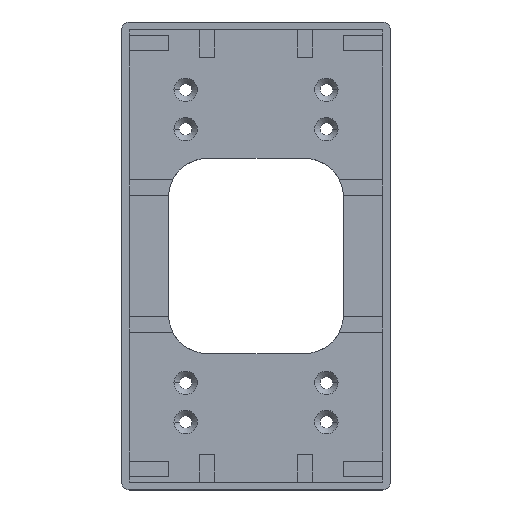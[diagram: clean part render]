
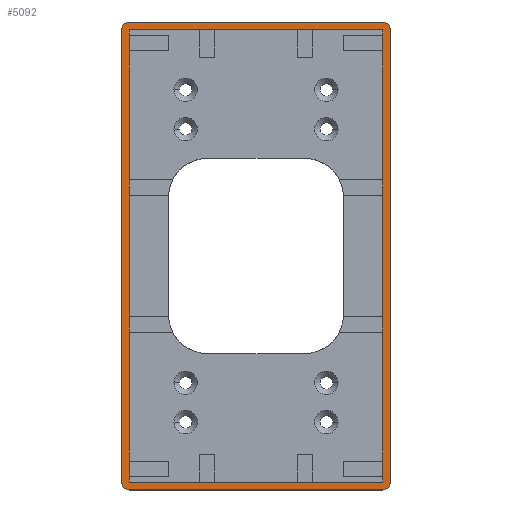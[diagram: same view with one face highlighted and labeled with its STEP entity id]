
A CAD part, top view. The second image highlights one B-rep face of the part: STEP entity #5092.
In plain terms, the highlighted planar face has unit normal (0, 0, 1).
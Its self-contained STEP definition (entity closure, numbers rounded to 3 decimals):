
#79 = VERTEX_POINT ( 'NONE', #5279 ) ;
#140 = ORIENTED_EDGE ( 'NONE', *, *, #5323, .F. ) ;
#148 = FACE_BOUND ( 'NONE', #4684, .T. ) ;
#152 = EDGE_CURVE ( 'NONE', #4329, #2093, #2324, .T. ) ;
#281 = CARTESIAN_POINT ( 'NONE',  ( -162.6, 254.9, 1. ) ) ;
#426 = CIRCLE ( 'NONE', #3569, 2. ) ;
#431 = LINE ( 'NONE', #4018, #4856 ) ;
#495 = CARTESIAN_POINT ( 'NONE',  ( -162.6, 137.1, 1. ) ) ;
#561 = EDGE_CURVE ( 'NONE', #958, #5165, #1219, .T. ) ;
#665 = CARTESIAN_POINT ( 'NONE',  ( -229.4, 254.9, 1. ) ) ;
#679 = CARTESIAN_POINT ( 'NONE',  ( -162.6, 254.9, 1. ) ) ;
#724 = VECTOR ( 'NONE', #1718, 1000. ) ;
#802 = EDGE_CURVE ( 'NONE', #1403, #1120, #3591, .T. ) ;
#816 = VECTOR ( 'NONE', #2236, 1000. ) ;
#909 = CARTESIAN_POINT ( 'NONE',  ( -227.4, 252.9, 1. ) ) ;
#958 = VERTEX_POINT ( 'NONE', #5431 ) ;
#1005 = DIRECTION ( 'NONE',  ( 0., 1., 0. ) ) ;
#1120 = VERTEX_POINT ( 'NONE', #3990 ) ;
#1168 = EDGE_CURVE ( 'NONE', #3998, #1120, #4582, .T. ) ;
#1175 = CARTESIAN_POINT ( 'NONE',  ( -227.4, 137.1, 1. ) ) ;
#1216 = ORIENTED_EDGE ( 'NONE', *, *, #2234, .T. ) ;
#1219 = CIRCLE ( 'NONE', #5105, 2. ) ;
#1403 = VERTEX_POINT ( 'NONE', #3311 ) ;
#1404 = CARTESIAN_POINT ( 'NONE',  ( -227.4, 254.9, 1. ) ) ;
#1423 = DIRECTION ( 'NONE',  ( 1., 0., 0. ) ) ;
#1535 = DIRECTION ( 'NONE',  ( -1., 0., 0. ) ) ;
#1617 = LINE ( 'NONE', #3310, #5149 ) ;
#1718 = DIRECTION ( 'NONE',  ( 1., 0., 0. ) ) ;
#1726 = VECTOR ( 'NONE', #3975, 1000. ) ;
#1829 = ORIENTED_EDGE ( 'NONE', *, *, #802, .T. ) ;
#1847 = VECTOR ( 'NONE', #1005, 1000. ) ;
#1898 = ORIENTED_EDGE ( 'NONE', *, *, #5042, .F. ) ;
#2000 = ORIENTED_EDGE ( 'NONE', *, *, #4341, .T. ) ;
#2079 = VECTOR ( 'NONE', #1423, 1000. ) ;
#2093 = VERTEX_POINT ( 'NONE', #495 ) ;
#2105 = LINE ( 'NONE', #1404, #1847 ) ;
#2152 = EDGE_CURVE ( 'NONE', #958, #3328, #4321, .T. ) ;
#2234 = EDGE_CURVE ( 'NONE', #2093, #5311, #431, .T. ) ;
#2236 = DIRECTION ( 'NONE',  ( -1., 0., 0. ) ) ;
#2250 = DIRECTION ( 'NONE',  ( -1., 0., 0. ) ) ;
#2284 = ORIENTED_EDGE ( 'NONE', *, *, #561, .T. ) ;
#2304 = CARTESIAN_POINT ( 'NONE',  ( -160.6, 137.1, 1. ) ) ;
#2324 = LINE ( 'NONE', #679, #4202 ) ;
#2401 = AXIS2_PLACEMENT_3D ( 'NONE', #4417, #4009, #3935 ) ;
#2415 = CIRCLE ( 'NONE', #2621, 2. ) ;
#2429 = CARTESIAN_POINT ( 'NONE',  ( -227.4, 252.9, 1. ) ) ;
#2431 = EDGE_CURVE ( 'NONE', #3998, #3328, #426, .T. ) ;
#2458 = ORIENTED_EDGE ( 'NONE', *, *, #4400, .T. ) ;
#2478 = LINE ( 'NONE', #4404, #2079 ) ;
#2494 = ORIENTED_EDGE ( 'NONE', *, *, #1168, .F. ) ;
#2621 = AXIS2_PLACEMENT_3D ( 'NONE', #2979, #3419, #4744 ) ;
#2630 = DIRECTION ( 'NONE',  ( 0., 0., 1. ) ) ;
#2810 = VERTEX_POINT ( 'NONE', #4337 ) ;
#2979 = CARTESIAN_POINT ( 'NONE',  ( -162.6, 252.9, 1. ) ) ;
#3089 = DIRECTION ( 'NONE',  ( -1., 0., 0. ) ) ;
#3227 = DIRECTION ( 'NONE',  ( 0., 0., 1. ) ) ;
#3251 = EDGE_CURVE ( 'NONE', #5311, #79, #2105, .T. ) ;
#3302 = DIRECTION ( 'NONE',  ( 0., 0., 1. ) ) ;
#3310 = CARTESIAN_POINT ( 'NONE',  ( -160.6, 254.9, 1. ) ) ;
#3311 = CARTESIAN_POINT ( 'NONE',  ( -227.4, 254.9, 1. ) ) ;
#3327 = EDGE_LOOP ( 'NONE', ( #140, #2000, #1898, #1829, #2494, #4882, #4526, #2284 ) ) ;
#3328 = VERTEX_POINT ( 'NONE', #5224 ) ;
#3419 = DIRECTION ( 'NONE',  ( 0., 0., 1. ) ) ;
#3558 = AXIS2_PLACEMENT_3D ( 'NONE', #2429, #3227, #1535 ) ;
#3569 = AXIS2_PLACEMENT_3D ( 'NONE', #1175, #3302, #4595 ) ;
#3591 = CIRCLE ( 'NONE', #3558, 2. ) ;
#3765 = DIRECTION ( 'NONE',  ( 0., -1., 0. ) ) ;
#3905 = CARTESIAN_POINT ( 'NONE',  ( -162.6, 137.1, 1. ) ) ;
#3923 = VERTEX_POINT ( 'NONE', #281 ) ;
#3935 = DIRECTION ( 'NONE',  ( -1., 0., 0. ) ) ;
#3970 = PLANE ( 'NONE',  #2401 ) ;
#3975 = DIRECTION ( 'NONE',  ( 0., 1., 0. ) ) ;
#3990 = CARTESIAN_POINT ( 'NONE',  ( -229.4, 252.9, 1. ) ) ;
#3998 = VERTEX_POINT ( 'NONE', #5327 ) ;
#4009 = DIRECTION ( 'NONE',  ( 0., 0., -1. ) ) ;
#4017 = LINE ( 'NONE', #909, #724 ) ;
#4018 = CARTESIAN_POINT ( 'NONE',  ( -162.6, 137.1, 1. ) ) ;
#4125 = CARTESIAN_POINT ( 'NONE',  ( -227.4, 137.1, 1. ) ) ;
#4202 = VECTOR ( 'NONE', #5353, 1000. ) ;
#4321 = LINE ( 'NONE', #4372, #816 ) ;
#4329 = VERTEX_POINT ( 'NONE', #5161 ) ;
#4337 = CARTESIAN_POINT ( 'NONE',  ( -160.6, 252.9, 1. ) ) ;
#4341 = EDGE_CURVE ( 'NONE', #2810, #3923, #2415, .T. ) ;
#4372 = CARTESIAN_POINT ( 'NONE',  ( -162.6, 135.1, 1. ) ) ;
#4400 = EDGE_CURVE ( 'NONE', #79, #4329, #4017, .T. ) ;
#4404 = CARTESIAN_POINT ( 'NONE',  ( -227.4, 254.9, 1. ) ) ;
#4417 = CARTESIAN_POINT ( 'NONE',  ( -162.6, 135.1, 1. ) ) ;
#4526 = ORIENTED_EDGE ( 'NONE', *, *, #2152, .F. ) ;
#4582 = LINE ( 'NONE', #665, #1726 ) ;
#4595 = DIRECTION ( 'NONE',  ( -1., 0., 0. ) ) ;
#4601 = ORIENTED_EDGE ( 'NONE', *, *, #152, .T. ) ;
#4684 = EDGE_LOOP ( 'NONE', ( #1216, #4969, #2458, #4601 ) ) ;
#4744 = DIRECTION ( 'NONE',  ( -1., 0., 0. ) ) ;
#4856 = VECTOR ( 'NONE', #2250, 1000. ) ;
#4882 = ORIENTED_EDGE ( 'NONE', *, *, #2431, .T. ) ;
#4958 = FACE_OUTER_BOUND ( 'NONE', #3327, .T. ) ;
#4969 = ORIENTED_EDGE ( 'NONE', *, *, #3251, .T. ) ;
#5042 = EDGE_CURVE ( 'NONE', #1403, #3923, #2478, .T. ) ;
#5092 = ADVANCED_FACE ( 'NONE', ( #148, #4958 ), #3970, .F. ) ;
#5105 = AXIS2_PLACEMENT_3D ( 'NONE', #3905, #2630, #3089 ) ;
#5149 = VECTOR ( 'NONE', #3765, 1000. ) ;
#5161 = CARTESIAN_POINT ( 'NONE',  ( -162.6, 252.9, 1. ) ) ;
#5165 = VERTEX_POINT ( 'NONE', #2304 ) ;
#5224 = CARTESIAN_POINT ( 'NONE',  ( -227.4, 135.1, 1. ) ) ;
#5279 = CARTESIAN_POINT ( 'NONE',  ( -227.4, 252.9, 1. ) ) ;
#5311 = VERTEX_POINT ( 'NONE', #4125 ) ;
#5323 = EDGE_CURVE ( 'NONE', #2810, #5165, #1617, .T. ) ;
#5327 = CARTESIAN_POINT ( 'NONE',  ( -229.4, 137.1, 1. ) ) ;
#5353 = DIRECTION ( 'NONE',  ( 0., -1., 0. ) ) ;
#5431 = CARTESIAN_POINT ( 'NONE',  ( -162.6, 135.1, 1. ) ) ;
